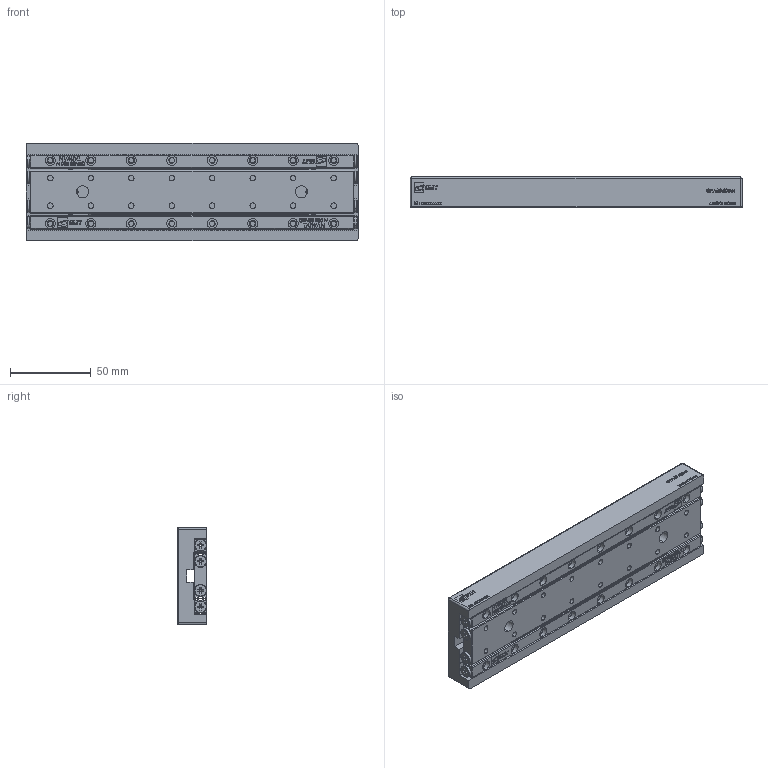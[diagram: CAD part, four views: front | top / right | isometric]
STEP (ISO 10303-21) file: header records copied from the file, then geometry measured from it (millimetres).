
FILE_DESCRIPTION (( 'STEP AP203' ), '1' );
FILE_NAME ('GRA60-205.STEP', '2012-10-19T02:09:45', ( '123' ), ( '' ), 'SwSTEP 2.0', 'SolidWorks 2012', '' );
FILE_SCHEMA (( 'CONFIG_CONTROL_DESIGN' ));
Length unit declared in the file: millimetre
Products named in the file (1): GRA60-205
Bounding box: 205 x 18.5 x 60 mm (x, y, z)
Surface area: 68860.3 mm2 (no closed solid volume)
Topology: 0 solids, 126 shells, 842 faces, 4615 edges, 3811 vertices
Faces by surface type: plane 510, cylinder 177, cone 81, torus 64, bspline 6, sphere 4
Entity records: 53421 total; most frequent: CARTESIAN_POINT 18685, DIRECTION 6647, ORIENTED_EDGE 6088, EDGE_CURVE 4577, VERTEX_POINT 3811, VECTOR 2877, LINE 2877, AXIS2_PLACEMENT_3D 1885
